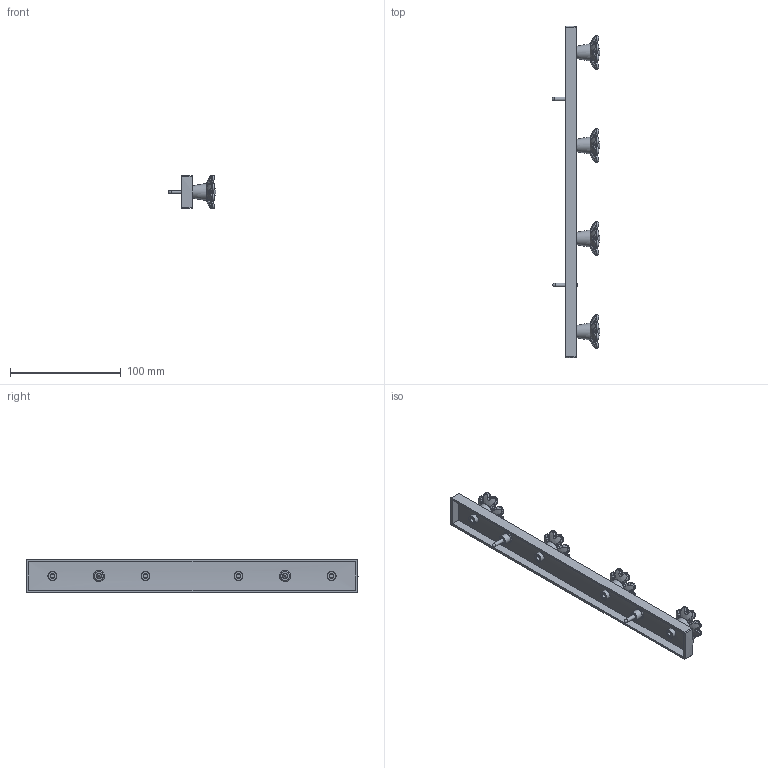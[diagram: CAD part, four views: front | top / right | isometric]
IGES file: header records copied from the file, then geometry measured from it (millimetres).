
Start section: C
Global section: file name: 8161-300.igs; native system: By Siemens PLM Incorporated; preprocessor: XPlus GENERIC/IGES 16.0.42; author: Author; organization: Title; date: 20231120.113421; units: millimetre
Bounding box: 43 x 299.65 x 30.52 mm (x, y, z)
Surface area: 45348.7 mm2 (no closed solid volume)
Topology: 0 solids, 0 shells, 521 faces, 2500 edges, 2496 vertices
Faces by surface type: bspline 521
